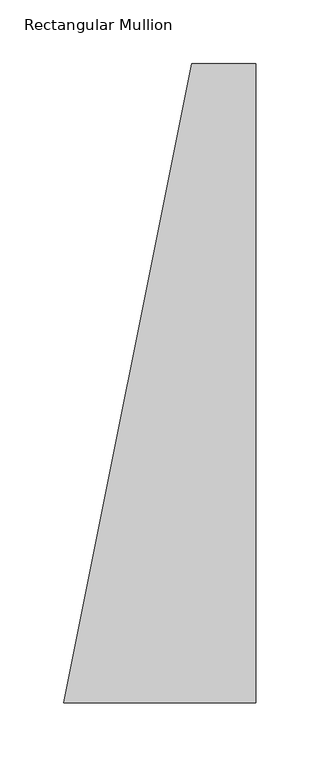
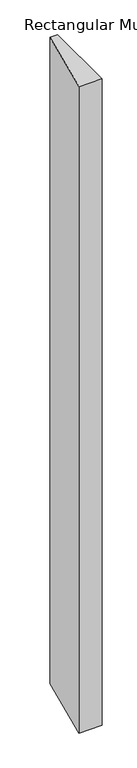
"""IFC4 building model written with IfcOpenShell, lengths in millimetres: member geometry, Rectangular Mullion : 500(350+150)x150x50mm."""

from ifc_helpers import new_model, si_unit, frame, origin, place, context, project, spatial, polyline, outline, extrude, source, transform, mapped, element, save


def rectangular_mullion_31b54cea(model_context):
    return source(origin(), model_context, "Body", "SweptSolid", [
        extrude(outline(polyline([(0.0, 150.0), (0.0, -350.0), (-150.0, -350.0), (-50.0, 150.0), (0.0, 150.0)])), frame((0.0, 0.0, -4450.0), z_axis=(0.0, 0.0, 1.0), x_axis=(1.0, 0.0, 0.0)), (0.0, 0.0, 1.0), 4450.0),
    ])


if __name__ == "__main__":
    model = new_model("IFC4")
    model_context = context("Model", 3, world=origin())
    ifc_project = project(units=[si_unit("LENGTHUNIT", "METRE", prefix="MILLI")], contexts=[model_context])
    site = spatial("IfcSite", under=ifc_project)
    building = spatial("IfcBuilding", under=site)
    placement = place(None, origin())
    rectangular_mullion_shape = rectangular_mullion_31b54cea(model_context)
    element("IfcMember", 1, ObjectType="Rectangular Mullion : 500(350+150)x150x50mm", at=placement, inside=building, context=model_context, shape_type="MappedRepresentation", body=[
        mapped(rectangular_mullion_shape, transform((0.0, 0.0, 0.0), x_axis=(1.0, 0.0, 0.0), y_axis=(0.0, 1.0, 0.0), z_axis=(0.0, 0.0, 1.0))),
    ])
    save(model, "model.ifc")
